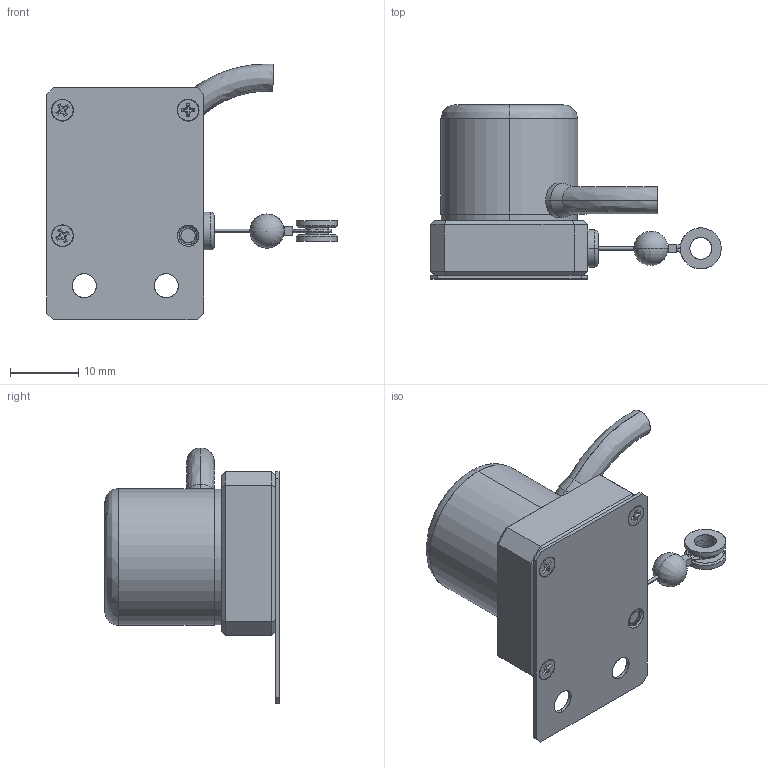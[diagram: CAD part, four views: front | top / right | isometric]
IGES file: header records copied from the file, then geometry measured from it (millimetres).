
Start section: SolidWorks IGES file using analytic representation for surfaces
Bounding box: 42.53 x 25.5 x 37.43 mm (x, y, z)
Surface area: 5201 mm2 (no closed solid volume)
Topology: 0 solids, 0 shells, 187 faces, 2450 edges, 2449 vertices
Faces by surface type: bspline 103, revolution 84
